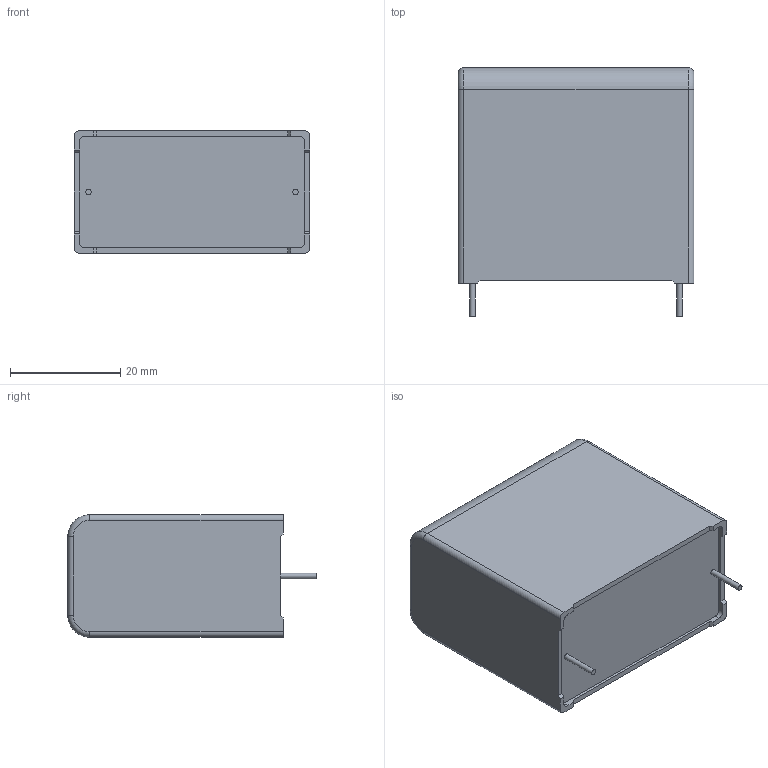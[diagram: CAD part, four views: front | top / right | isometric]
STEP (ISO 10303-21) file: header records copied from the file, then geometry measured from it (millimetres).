
FILE_DESCRIPTION (( 'STEP AP203' ), '1' );
FILE_NAME ('MKP1847H55031+P2.step', '2018-01-17T10:51:05', ( 'work' ), ( 'Hewlett-Packard Company' ), 'SwSTEP 2.0', 'SolidWorks 2017', '' );
FILE_SCHEMA (( 'CONFIG_CONTROL_DESIGN' ));
Length unit declared in the file: millimetre
Products named in the file (1): MKP1847H55031+P2
Bounding box: 42.7 x 45 x 22.2 mm (x, y, z)
Volume: 35775 mm3; surface area: 6779.4 mm2
Topology: 1 solids, 1 shells, 114 faces, 303 edges, 200 vertices
Faces by surface type: plane 80, bspline 16, cylinder 14, torus 4
Full cylindrical faces by diameter (mm): 1 x2
Entity records: 4252 total; most frequent: CARTESIAN_POINT 1436, ORIENTED_EDGE 598, DIRECTION 497, EDGE_CURVE 299, LINE 235, VECTOR 235, VERTEX_POINT 198, AXIS2_PLACEMENT_3D 131
